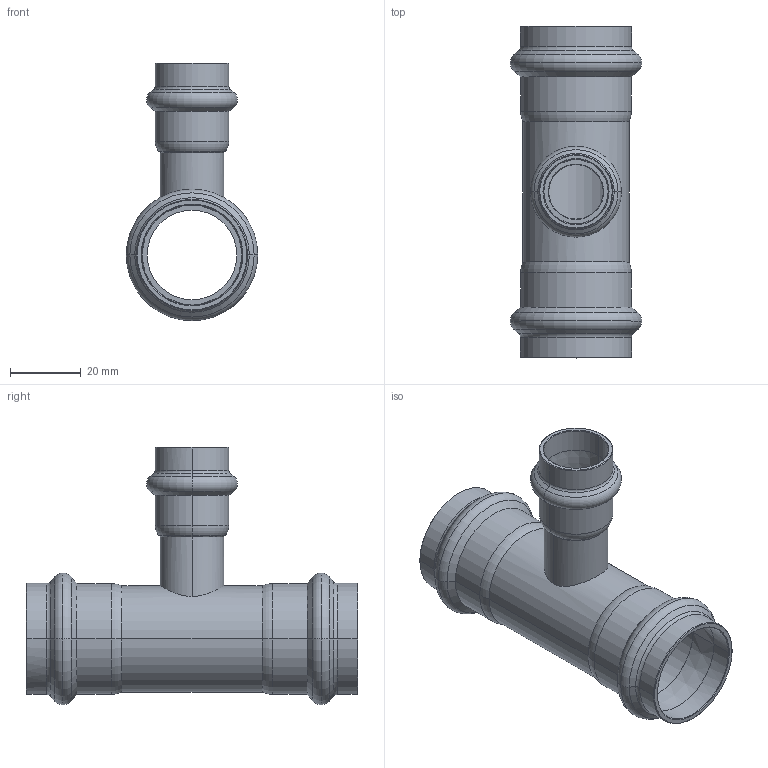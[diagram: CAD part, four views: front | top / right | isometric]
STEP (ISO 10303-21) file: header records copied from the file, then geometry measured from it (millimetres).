
FILE_DESCRIPTION(('CoCreate Modeling STEP Export'),'2;1');
FILE_NAME('8130RVW281828.stp','2013-01-31T14:38:57',(''),(''),'CoCreate Modeling STEP processor for AP214 (Solid Model)','CoCreate Modeling 17.00A 17-Jun-2010 (C) Parametric Technology GmbH','');
FILE_SCHEMA(('AUTOMOTIVE_DESIGN { 1 0 10303 214 1 1 1 1 }'));
Length unit declared in the file: millimetre
Products named in the file (2): 8130RVW281828
Assembly tree (1 placements, depth 2):
  8130RVW281828
    8130RVW281828
Bounding box: 37.2 x 93.81 x 72.79 mm (x, y, z)
Volume: 19908.8 mm3; surface area: 23400.6 mm2
Topology: 1 solids, 1 shells, 128 faces, 282 edges, 164 vertices
Faces by surface type: torus 40, cylinder 40, cone 36, plane 10, bspline 2
Entity records: 4997 total; most frequent: CARTESIAN_POINT 2598, ORIENTED_EDGE 564, DIRECTION 428, EDGE_CURVE 282, AXIS2_PLACEMENT_3D 176, VERTEX_POINT 164, EDGE_LOOP 140, FACE_OUTER_BOUND 128
